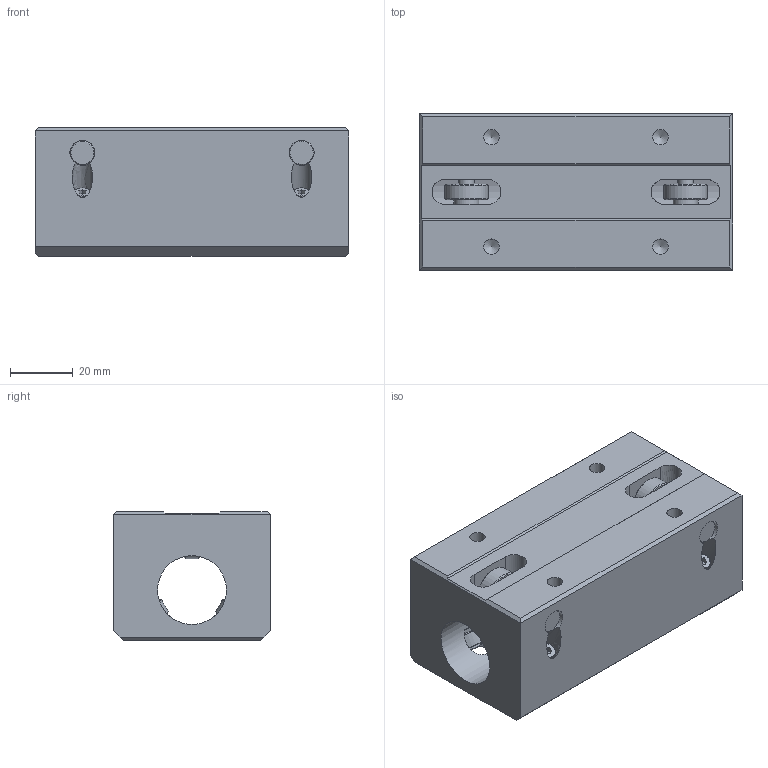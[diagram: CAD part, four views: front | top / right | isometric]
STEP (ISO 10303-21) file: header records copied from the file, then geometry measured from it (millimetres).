
FILE_DESCRIPTION((''),'2;1');
FILE_NAME('D:\製品 (図面)\カタログ用3D\リニアガイド関連\STEP形式\SLHW\SLHW20.stp','2010-06-02T17:07:32',('Tsuchiya'),(''),'Autodesk Inventor 10','Autodesk Inventor 10','');
FILE_SCHEMA(('AUTOMOTIVE_DESIGN { 1 0 10303 214 1 1 1 1 }'));
Length unit declared in the file: millimetre
Products named in the file (1): SLHW20
Bounding box: 100 x 50 x 41 mm (x, y, z)
Volume: 153616.7 mm3; surface area: 35480.1 mm2
Topology: 1 solids, 1 shells, 177 faces, 413 edges, 266 vertices
Faces by surface type: bspline 73, plane 56, cylinder 25, cone 20, torus 3
Full cylindrical faces by diameter (mm): 4.917 x2, 5 x3, 5.5 x3, 6.5 x3, 8 x3, 14 x3, 16 x2, 22 x1
Entity records: 5418 total; most frequent: CARTESIAN_POINT 2115, ORIENTED_EDGE 612, DIRECTION 584, EDGE_CURVE 306, EDGE_LOOP 296, VERTEX_POINT 232, AXIS2_PLACEMENT_3D 223, FACE_OUTER_BOUND 177
